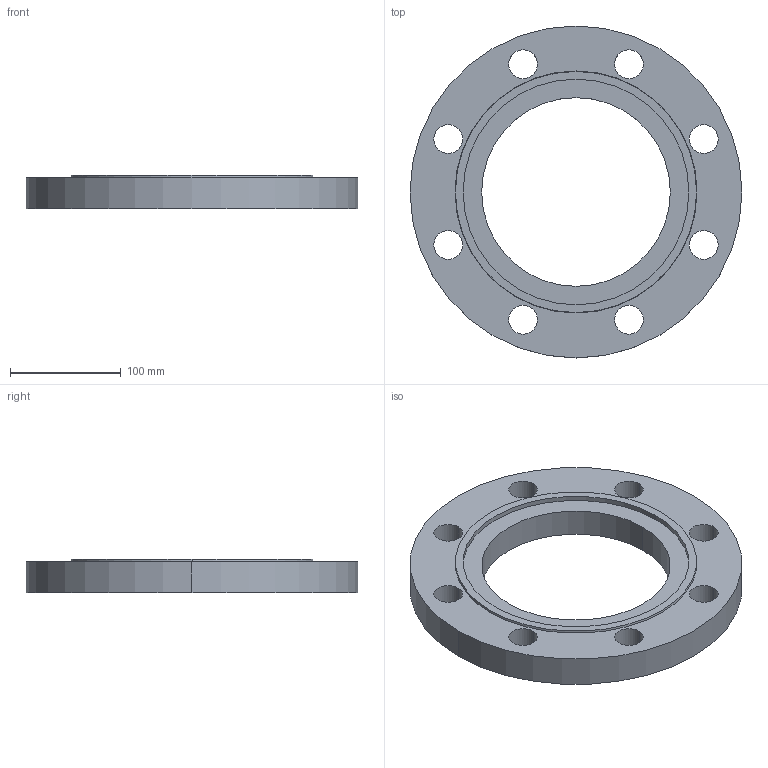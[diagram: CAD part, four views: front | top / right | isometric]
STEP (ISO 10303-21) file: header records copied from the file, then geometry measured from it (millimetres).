
FILE_DESCRIPTION (( 'STEP AP214' ), '1' );
FILE_NAME ('PN40 DN150 Type 01 - Type F Face.STEP', '2019-01-05T00:25:37', ( '' ), ( '' ), 'SwSTEP 2.0', 'SolidWorks 2019', '' );
FILE_SCHEMA (( 'AUTOMOTIVE_DESIGN' ));
Length unit declared in the file: millimetre
Products named in the file (1): PN40 DN150 Type 01 - Type F Face
Bounding box: 300 x 300 x 30 mm (x, y, z)
Volume: 1205875.6 mm3; surface area: 149593.4 mm2
Topology: 1 solids, 1 shells, 28 faces, 72 edges, 48 vertices
Faces by surface type: cylinder 22, plane 4, cone 2
Entity records: 954 total; most frequent: DIRECTION 178, CARTESIAN_POINT 149, ORIENTED_EDGE 144, AXIS2_PLACEMENT_3D 77, EDGE_CURVE 72, EDGE_LOOP 48, VERTEX_POINT 48, CIRCLE 48
